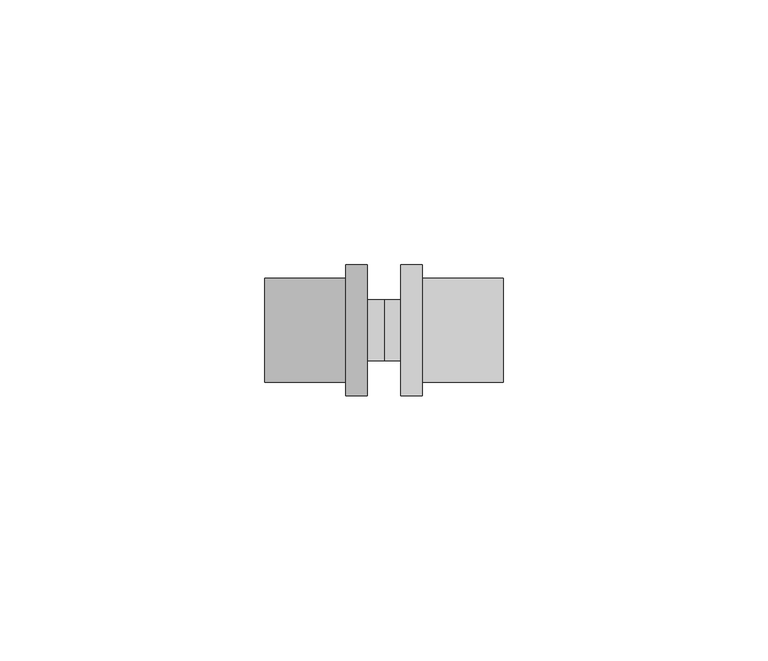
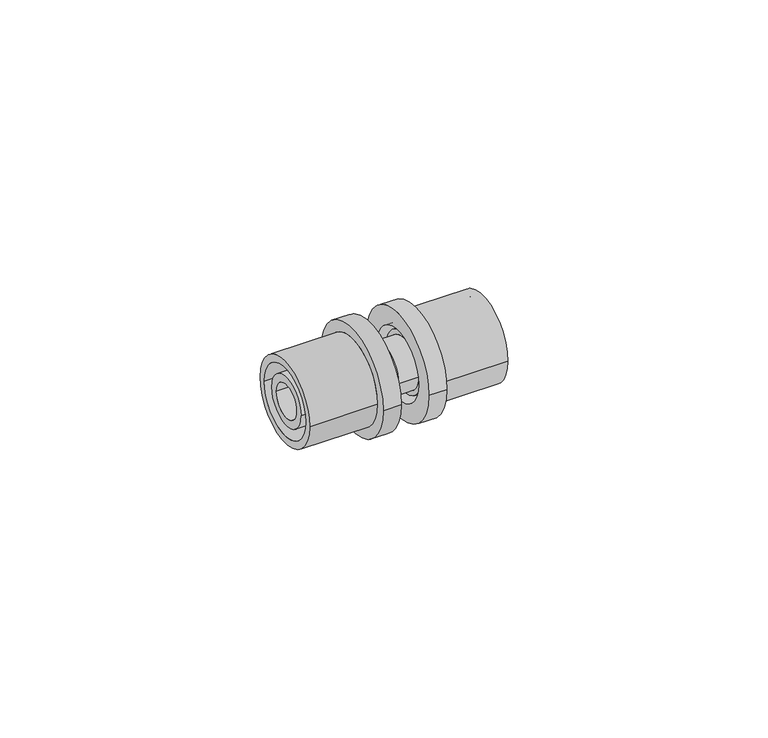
"""IFC4 building model written with IfcOpenShell, lengths in millimetres: pipe fitting geometry, FASTLOC_Coupling equal EX+ : FSL C EX AT."""

from ifc_helpers import new_model, si_unit, frame, origin, place, context, project, spatial, polyline, circle_curve, source, transform, mapped, element, save
from ifc_brep_helpers import plane_surface, cylinder_surface, revolved_surface, advanced_brep


def pipe_fitting_455e7b61(model_context):
    return source(origin(), model_context, "Body", "AdvancedBrep", [
        advanced_brep(
        [(7.2, 12.35, 0.0), (7.2, -12.35, 0.0), (3.2, -12.35, 0.0), (3.2, 12.35, 0.0), (22.5, 9.85, 0.0), (22.5, -9.85, 0.0), (7.2, -9.85, 0.0), (7.2, 9.85, 0.0), (3.2, 8.15, 0.0), (3.2, -8.15, 0.0), (22.5, -8.15, 0.0), (22.5, 8.15, 0.0)],
        [
            (0, 1, circle_curve(frame((7.2, 0.0, 0.0), z_axis=(-1.0, 0.0, 0.0), x_axis=(0.0, -1.0, 0.0)), 12.35)),
            (1, 2),
            (2, 3, circle_curve(frame((3.2, 0.0, 0.0), z_axis=(1.0, 0.0, 0.0), x_axis=(0.0, -1.0, 0.0)), 12.35)),
            (3, 0),
            (4, 5, circle_curve(frame((22.5, 0.0, 0.0), z_axis=(-1.0, 0.0, 0.0), x_axis=(0.0, -1.0, 0.0)), 9.85)),
            (5, 6),
            (6, 7, circle_curve(frame((7.2, 0.0, 0.0), z_axis=(1.0, 0.0, 0.0), x_axis=(0.0, -1.0, 0.0)), 9.85)),
            (7, 4),
            (8, 9, circle_curve(frame((3.2, 0.0, 0.0), z_axis=(-1.0, 0.0, 0.0), x_axis=(0.0, -1.0, 0.0)), 8.15)),
            (9, 10),
            (10, 11, circle_curve(frame((22.5, 0.0, 0.0), z_axis=(1.0, 0.0, 0.0), x_axis=(0.0, -1.0, 0.0)), 8.15)),
            (11, 8),
            (1, 0, circle_curve(frame((7.2, 0.0, 0.0), z_axis=(-1.0, 0.0, 0.0), x_axis=(0.0, 1.0, 0.0)), 12.35)),
            (3, 2, circle_curve(frame((3.2, 0.0, 0.0), z_axis=(1.0, 0.0, 0.0), x_axis=(0.0, 1.0, 0.0)), 12.35)),
            (6, 7, circle_curve(frame((7.2, 0.0, 0.0), z_axis=(-1.0, 0.0, 0.0), x_axis=(0.0, 1.0, 0.0)), 9.85)),
            (5, 4, circle_curve(frame((22.5, 0.0, 0.0), z_axis=(-1.0, 0.0, 0.0), x_axis=(0.0, 1.0, 0.0)), 9.85)),
            (10, 11, circle_curve(frame((22.5, 0.0, 0.0), z_axis=(-1.0, 0.0, 0.0), x_axis=(0.0, 1.0, 0.0)), 8.15)),
            (9, 8, circle_curve(frame((3.2, 0.0, 0.0), z_axis=(-1.0, 0.0, 0.0), x_axis=(0.0, 1.0, 0.0)), 8.15)),
        ],
        [
            cylinder_surface(frame((3.2, 0.0, 0.0), z_axis=(1.0, 0.0, 0.0), x_axis=(0.0, -1.0, 0.0)), 12.35),
            cylinder_surface(frame((3.2, 0.0, 0.0), z_axis=(1.0, 0.0, 0.0), x_axis=(0.0, -1.0, 0.0)), 9.85),
            revolved_surface(polyline([(22.5, -8.15, 0.0), (3.2, -8.15, 0.0)]), (3.2, 0.0, 0.0), (1.0, 0.0, 0.0)),
            cylinder_surface(frame((3.2, 0.0, 0.0), z_axis=(1.0, 0.0, 0.0), x_axis=(0.0, 1.0, 0.0)), 12.35),
            plane_surface(frame((7.2, 0.0, 0.0), z_axis=(1.0, 0.0, 0.0), x_axis=(0.0, 1.0, 0.0))),
            cylinder_surface(frame((3.2, 0.0, 0.0), z_axis=(1.0, 0.0, 0.0), x_axis=(0.0, 1.0, 0.0)), 9.85),
            plane_surface(frame((22.5, 0.0, 0.0), z_axis=(1.0, 0.0, 0.0), x_axis=(0.0, 1.0, 0.0))),
            revolved_surface(polyline([(22.5, 8.15, 0.0), (3.2, 8.15, 0.0)]), (3.2, 0.0, 0.0), (1.0, 0.0, 0.0)),
            plane_surface(frame((3.2, 0.0, 0.0), z_axis=(-1.0, 0.0, 0.0), x_axis=(0.0, 1.0, 0.0))),
        ],
        [
            (0, [[1, 2, 3, 4]]),
            (1, [[5, 6, 7, 8]]),
            (2, [[9, 10, 11, 12]]),
            (3, [[13, -4, 14, -2]]),
            (4, [[-13, -1], [15, -7]]),
            (5, [[16, -8, -15, -6]]),
            (6, [[-16, -5], [17, -11]]),
            (7, [[18, -12, -17, -10]]),
            (8, [[-14, -3], [-18, -9]]),
        ],
    ),
        advanced_brep(
        [(-7.2, -12.35, 0.0), (-7.2, 12.35, 0.0), (-3.2, 12.35, 0.0), (-3.2, -12.35, 0.0), (-22.5, -9.85, 0.0), (-22.5, 9.85, 0.0), (-7.2, 9.85, 0.0), (-7.2, -9.85, 0.0), (-3.2, -8.15, 0.0), (-3.2, 8.15, 0.0), (-22.5, 8.15, 0.0), (-22.5, -8.15, 0.0)],
        [
            (0, 1, circle_curve(frame((-7.2, 0.0, 0.0), z_axis=(1.0, 0.0, 0.0), x_axis=(0.0, 1.0, 0.0)), 12.35)),
            (1, 2),
            (2, 3, circle_curve(frame((-3.2, 0.0, 0.0), z_axis=(-1.0, 0.0, 0.0), x_axis=(0.0, 1.0, 0.0)), 12.35)),
            (3, 0),
            (4, 5, circle_curve(frame((-22.5, 0.0, 0.0), z_axis=(1.0, 0.0, 0.0), x_axis=(0.0, 1.0, 0.0)), 9.85)),
            (5, 6),
            (6, 7, circle_curve(frame((-7.2, 0.0, 0.0), z_axis=(-1.0, 0.0, 0.0), x_axis=(0.0, 1.0, 0.0)), 9.85)),
            (7, 4),
            (8, 9, circle_curve(frame((-3.2, 0.0, 0.0), z_axis=(1.0, 0.0, 0.0), x_axis=(0.0, 1.0, 0.0)), 8.15)),
            (9, 10),
            (10, 11, circle_curve(frame((-22.5, 0.0, 0.0), z_axis=(-1.0, 0.0, 0.0), x_axis=(0.0, 1.0, 0.0)), 8.15)),
            (11, 8),
            (1, 0, circle_curve(frame((-7.2, 0.0, 0.0), z_axis=(1.0, 0.0, 0.0), x_axis=(0.0, -1.0, 0.0)), 12.35)),
            (3, 2, circle_curve(frame((-3.2, 0.0, 0.0), z_axis=(-1.0, 0.0, 0.0), x_axis=(0.0, -1.0, 0.0)), 12.35)),
            (6, 7, circle_curve(frame((-7.2, 0.0, 0.0), z_axis=(1.0, 0.0, 0.0), x_axis=(0.0, -1.0, 0.0)), 9.85)),
            (5, 4, circle_curve(frame((-22.5, 0.0, 0.0), z_axis=(1.0, 0.0, 0.0), x_axis=(0.0, -1.0, 0.0)), 9.85)),
            (10, 11, circle_curve(frame((-22.5, 0.0, 0.0), z_axis=(1.0, 0.0, 0.0), x_axis=(0.0, -1.0, 0.0)), 8.15)),
            (9, 8, circle_curve(frame((-3.2, 0.0, 0.0), z_axis=(1.0, 0.0, 0.0), x_axis=(0.0, -1.0, 0.0)), 8.15)),
        ],
        [
            cylinder_surface(frame((-3.2, 0.0, 0.0), z_axis=(-1.0, 0.0, 0.0), x_axis=(0.0, 1.0, 0.0)), 12.35),
            cylinder_surface(frame((-3.2, 0.0, 0.0), z_axis=(-1.0, 0.0, 0.0), x_axis=(0.0, 1.0, 0.0)), 9.85),
            revolved_surface(polyline([(-22.5, 8.15, 0.0), (-3.2, 8.15, 0.0)]), (-3.2, 0.0, 0.0), (-1.0, 0.0, 0.0)),
            cylinder_surface(frame((-3.2, 0.0, 0.0), z_axis=(-1.0, 0.0, 0.0), x_axis=(0.0, -1.0, 0.0)), 12.35),
            plane_surface(frame((-7.2, 0.0, 0.0), z_axis=(-1.0, 0.0, 0.0), x_axis=(0.0, -1.0, 0.0))),
            cylinder_surface(frame((-3.2, 0.0, 0.0), z_axis=(-1.0, 0.0, 0.0), x_axis=(0.0, -1.0, 0.0)), 9.85),
            plane_surface(frame((-22.5, 0.0, 0.0), z_axis=(-1.0, 0.0, 0.0), x_axis=(0.0, -1.0, 0.0))),
            revolved_surface(polyline([(-22.5, -8.15, 0.0), (-3.2, -8.15, 0.0)]), (-3.2, 0.0, 0.0), (-1.0, 0.0, 0.0)),
            plane_surface(frame((-3.2, 0.0, 0.0), z_axis=(1.0, 0.0, 0.0), x_axis=(0.0, -1.0, 0.0))),
        ],
        [
            (0, [[1, 2, 3, 4]]),
            (1, [[5, 6, 7, 8]]),
            (2, [[9, 10, 11, 12]]),
            (3, [[13, -4, 14, -2]]),
            (4, [[-13, -1], [15, -7]]),
            (5, [[16, -8, -15, -6]]),
            (6, [[-16, -5], [17, -11]]),
            (7, [[18, -12, -17, -10]]),
            (8, [[-14, -3], [-18, -9]]),
        ],
    ),
        advanced_brep(
        [(7.2, 6.9, 0.0), (7.2, -6.9, 0.0), (4.5, -6.9, 0.0), (4.5, 6.9, 0.0), (22.2, 5.8, 0.0), (22.2, -5.8, 0.0), (7.2, -5.8, 0.0), (7.2, 5.8, 0.0), (-22.2, 3.95, 0.0), (-22.2, -3.95, 0.0), (22.2, -3.95, 0.0), (22.2, 3.95, 0.0), (-7.2, 5.8, 0.0), (-7.2, -5.8, 0.0), (-22.2, -5.8, 0.0), (-22.2, 5.8, 0.0), (-4.5, 6.9, 0.0), (-4.5, -6.9, 0.0), (-7.2, -6.9, 0.0), (-7.2, 6.9, 0.0), (0.0, 5.8, 0.0), (0.0, -5.8, 0.0), (-4.5, -5.8, 0.0), (-4.5, 5.8, 0.0), (4.5, 5.8, 0.0), (4.5, -5.8, 0.0)],
        [
            (0, 1, circle_curve(frame((7.2, 0.0, 0.0), z_axis=(-1.0, 0.0, 0.0), x_axis=(0.0, -1.0, 0.0)), 6.9)),
            (1, 2),
            (2, 3, circle_curve(frame((4.5, 0.0, 0.0), z_axis=(1.0, 0.0, 0.0), x_axis=(0.0, -1.0, 0.0)), 6.9)),
            (3, 0),
            (4, 5, circle_curve(frame((22.2, 0.0, 0.0), z_axis=(-1.0, 0.0, 0.0), x_axis=(0.0, -1.0, 0.0)), 5.8)),
            (5, 6),
            (6, 7, circle_curve(frame((7.2, 0.0, 0.0), z_axis=(1.0, 0.0, 0.0), x_axis=(0.0, -1.0, 0.0)), 5.8)),
            (7, 4),
            (8, 9, circle_curve(frame((-22.2, 0.0, 0.0), z_axis=(-1.0, 0.0, 0.0), x_axis=(0.0, -1.0, 0.0)), 3.95)),
            (9, 10),
            (10, 11, circle_curve(frame((22.2, 0.0, 0.0), z_axis=(1.0, 0.0, 0.0), x_axis=(0.0, -1.0, 0.0)), 3.95)),
            (11, 8),
            (12, 13, circle_curve(frame((-7.2, 0.0, 0.0), z_axis=(-1.0, 0.0, 0.0), x_axis=(0.0, -1.0, 0.0)), 5.8)),
            (13, 14),
            (14, 15, circle_curve(frame((-22.2, 0.0, 0.0), z_axis=(1.0, 0.0, 0.0), x_axis=(0.0, -1.0, 0.0)), 5.8)),
            (15, 12),
            (16, 17, circle_curve(frame((-4.5, 0.0, 0.0), z_axis=(-1.0, 0.0, 0.0), x_axis=(0.0, -1.0, 0.0)), 6.9)),
            (17, 18),
            (18, 19, circle_curve(frame((-7.2, 0.0, 0.0), z_axis=(1.0, 0.0, 0.0), x_axis=(0.0, -1.0, 0.0)), 6.9)),
            (19, 16),
            (20, 21, circle_curve(frame((0.0, 0.0, 0.0), z_axis=(-1.0, 0.0, 0.0), x_axis=(0.0, -1.0, 0.0)), 5.8)),
            (21, 22),
            (22, 23, circle_curve(frame((-4.5, 0.0, 0.0), z_axis=(1.0, 0.0, 0.0), x_axis=(0.0, -1.0, 0.0)), 5.8)),
            (23, 20),
            (24, 25, circle_curve(frame((4.5, 0.0, 0.0), z_axis=(-1.0, 0.0, 0.0), x_axis=(0.0, -1.0, 0.0)), 5.8)),
            (25, 21),
            (20, 24),
            (1, 0, circle_curve(frame((7.2, 0.0, 0.0), z_axis=(-1.0, 0.0, 0.0), x_axis=(0.0, 1.0, 0.0)), 6.9)),
            (3, 2, circle_curve(frame((4.5, 0.0, 0.0), z_axis=(1.0, 0.0, 0.0), x_axis=(0.0, 1.0, 0.0)), 6.9)),
            (6, 7, circle_curve(frame((7.2, 0.0, 0.0), z_axis=(-1.0, 0.0, 0.0), x_axis=(0.0, 1.0, 0.0)), 5.8)),
            (5, 4, circle_curve(frame((22.2, 0.0, 0.0), z_axis=(-1.0, 0.0, 0.0), x_axis=(0.0, 1.0, 0.0)), 5.8)),
            (10, 11, circle_curve(frame((22.2, 0.0, 0.0), z_axis=(-1.0, 0.0, 0.0), x_axis=(0.0, 1.0, 0.0)), 3.95)),
            (9, 8, circle_curve(frame((-22.2, 0.0, 0.0), z_axis=(-1.0, 0.0, 0.0), x_axis=(0.0, 1.0, 0.0)), 3.95)),
            (14, 15, circle_curve(frame((-22.2, 0.0, 0.0), z_axis=(-1.0, 0.0, 0.0), x_axis=(0.0, 1.0, 0.0)), 5.8)),
            (13, 12, circle_curve(frame((-7.2, 0.0, 0.0), z_axis=(-1.0, 0.0, 0.0), x_axis=(0.0, 1.0, 0.0)), 5.8)),
            (18, 19, circle_curve(frame((-7.2, 0.0, 0.0), z_axis=(-1.0, 0.0, 0.0), x_axis=(0.0, 1.0, 0.0)), 6.9)),
            (17, 16, circle_curve(frame((-4.5, 0.0, 0.0), z_axis=(-1.0, 0.0, 0.0), x_axis=(0.0, 1.0, 0.0)), 6.9)),
            (22, 23, circle_curve(frame((-4.5, 0.0, 0.0), z_axis=(-1.0, 0.0, 0.0), x_axis=(0.0, 1.0, 0.0)), 5.8)),
            (21, 20, circle_curve(frame((0.0, 0.0, 0.0), z_axis=(-1.0, 0.0, 0.0), x_axis=(0.0, 1.0, 0.0)), 5.8)),
            (25, 24, circle_curve(frame((4.5, 0.0, 0.0), z_axis=(-1.0, 0.0, 0.0), x_axis=(0.0, 1.0, 0.0)), 5.8)),
        ],
        [
            cylinder_surface(frame((0.0, 0.0, 0.0), z_axis=(1.0, 0.0, 0.0), x_axis=(0.0, -1.0, 0.0)), 6.9),
            cylinder_surface(frame((0.0, 0.0, 0.0), z_axis=(1.0, 0.0, 0.0), x_axis=(0.0, -1.0, 0.0)), 5.8),
            revolved_surface(polyline([(22.2, -3.95, 0.0), (-22.2, -3.95, 0.0)]), (0.0, 0.0, 0.0), (1.0, 0.0, 0.0)),
            cylinder_surface(frame((0.0, 0.0, 0.0), z_axis=(1.0, 0.0, 0.0), x_axis=(0.0, 1.0, 0.0)), 6.9),
            plane_surface(frame((7.2, 0.0, 0.0), z_axis=(1.0, 0.0, 0.0), x_axis=(0.0, 1.0, 0.0))),
            cylinder_surface(frame((0.0, 0.0, 0.0), z_axis=(1.0, 0.0, 0.0), x_axis=(0.0, 1.0, 0.0)), 5.8),
            plane_surface(frame((22.2, 0.0, 0.0), z_axis=(1.0, 0.0, 0.0), x_axis=(0.0, 1.0, 0.0))),
            revolved_surface(polyline([(22.2, 3.95, 0.0), (-22.2, 3.95, 0.0)]), (0.0, 0.0, 0.0), (1.0, 0.0, 0.0)),
            plane_surface(frame((-22.2, 0.0, 0.0), z_axis=(-1.0, 0.0, 0.0), x_axis=(0.0, 1.0, 0.0))),
            plane_surface(frame((-7.2, 0.0, 0.0), z_axis=(-1.0, 0.0, 0.0), x_axis=(0.0, 1.0, 0.0))),
            plane_surface(frame((-4.5, 0.0, 0.0), z_axis=(1.0, 0.0, 0.0), x_axis=(0.0, 1.0, 0.0))),
            plane_surface(frame((4.5, 0.0, 0.0), z_axis=(-1.0, 0.0, 0.0), x_axis=(0.0, 1.0, 0.0))),
        ],
        [
            (0, [[1, 2, 3, 4]]),
            (1, [[5, 6, 7, 8]]),
            (2, [[9, 10, 11, 12]]),
            (1, [[13, 14, 15, 16]]),
            (0, [[17, 18, 19, 20]]),
            (1, [[21, 22, 23, 24]]),
            (1, [[25, 26, -21, 27]]),
            (3, [[28, -4, 29, -2]]),
            (4, [[-28, -1], [30, -7]]),
            (5, [[31, -8, -30, -6]]),
            (6, [[-31, -5], [32, -11]]),
            (7, [[33, -12, -32, -10]]),
            (8, [[34, -15], [-33, -9]]),
            (5, [[35, -16, -34, -14]]),
            (9, [[36, -19], [-35, -13]]),
            (3, [[37, -20, -36, -18]]),
            (10, [[-37, -17], [38, -23]]),
            (5, [[39, -24, -38, -22]]),
            (5, [[40, -27, -39, -26]]),
            (11, [[-29, -3], [-40, -25]]),
        ],
    ),
    ])


if __name__ == "__main__":
    model = new_model("IFC4")
    model_context = context("Model", 3, world=origin())
    ifc_project = project(units=[si_unit("LENGTHUNIT", "METRE", prefix="MILLI")], contexts=[model_context])
    site = spatial("IfcSite", under=ifc_project)
    building = spatial("IfcBuilding", under=site)
    placement = place(None, origin())
    pipe_fitting_shape = pipe_fitting_455e7b61(model_context)
    element("IfcPipeFitting", 1, ObjectType="FASTLOC_Coupling equal EX+ : FSL C EX AT", at=placement, inside=building, context=model_context, shape_type="MappedRepresentation", body=[
        mapped(pipe_fitting_shape, transform((0.0, 0.0, 0.0), x_axis=(1.0, 0.0, 0.0), y_axis=(0.0, 1.0, 0.0), z_axis=(0.0, 0.0, 1.0))),
    ])
    save(model, "model.ifc")
